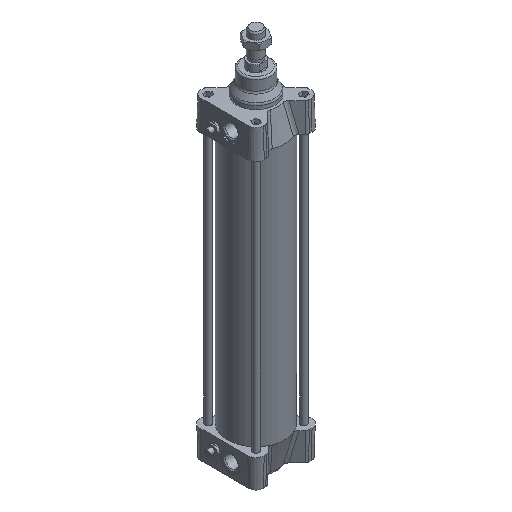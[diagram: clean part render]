
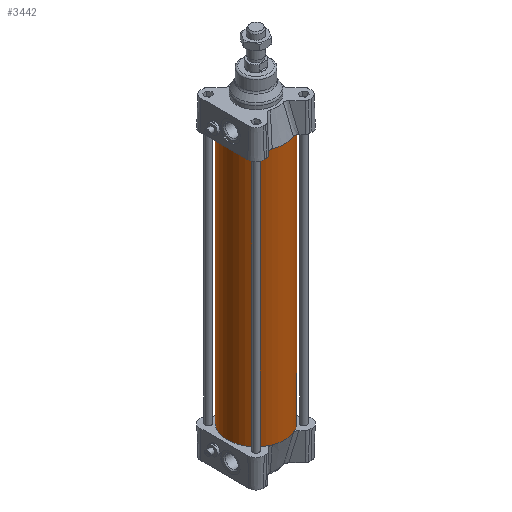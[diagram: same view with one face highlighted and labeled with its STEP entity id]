
A CAD part, isometric view. The second image highlights one B-rep face of the part: STEP entity #3442.
In plain terms, the highlighted cylindrical face has radius 34 mm (diameter 68 mm), a full revolution.
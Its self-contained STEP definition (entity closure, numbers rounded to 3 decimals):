
#805=FACE_BOUND('',#1156,.T.);
#919=FACE_OUTER_BOUND('',#1155,.T.);
#1155=EDGE_LOOP('',(#2522,#2523,#2524,#2525,#2526,#2527));
#1156=EDGE_LOOP('',(#2528,#2529,#2530,#2531,#2532,#2533));
#1447=CIRCLE('',#3715,34.);
#1448=CIRCLE('',#3716,34.);
#1449=CIRCLE('',#3717,34.);
#1450=CIRCLE('',#3718,34.);
#1451=CIRCLE('',#3719,34.);
#1452=CIRCLE('',#3720,34.);
#1453=CIRCLE('',#3721,34.);
#1454=CIRCLE('',#3722,34.);
#1455=CIRCLE('',#3723,34.);
#1456=CIRCLE('',#3724,34.);
#1457=CIRCLE('',#3725,34.);
#1458=CIRCLE('',#3726,34.);
#1638=VERTEX_POINT('',#5250);
#1639=VERTEX_POINT('',#5251);
#1640=VERTEX_POINT('',#5253);
#1641=VERTEX_POINT('',#5255);
#1642=VERTEX_POINT('',#5257);
#1643=VERTEX_POINT('',#5259);
#1644=VERTEX_POINT('',#5262);
#1645=VERTEX_POINT('',#5263);
#1646=VERTEX_POINT('',#5265);
#1647=VERTEX_POINT('',#5267);
#1648=VERTEX_POINT('',#5269);
#1649=VERTEX_POINT('',#5271);
#1983=EDGE_CURVE('',#1638,#1639,#1447,.T.);
#1984=EDGE_CURVE('',#1640,#1638,#1448,.T.);
#1985=EDGE_CURVE('',#1641,#1640,#1449,.T.);
#1986=EDGE_CURVE('',#1642,#1641,#1450,.T.);
#1987=EDGE_CURVE('',#1643,#1642,#1451,.T.);
#1988=EDGE_CURVE('',#1639,#1643,#1452,.T.);
#1989=EDGE_CURVE('',#1644,#1645,#1453,.T.);
#1990=EDGE_CURVE('',#1646,#1644,#1454,.T.);
#1991=EDGE_CURVE('',#1647,#1646,#1455,.T.);
#1992=EDGE_CURVE('',#1648,#1647,#1456,.T.);
#1993=EDGE_CURVE('',#1649,#1648,#1457,.T.);
#1994=EDGE_CURVE('',#1645,#1649,#1458,.T.);
#2522=ORIENTED_EDGE('',*,*,#1983,.F.);
#2523=ORIENTED_EDGE('',*,*,#1984,.F.);
#2524=ORIENTED_EDGE('',*,*,#1985,.F.);
#2525=ORIENTED_EDGE('',*,*,#1986,.F.);
#2526=ORIENTED_EDGE('',*,*,#1987,.F.);
#2527=ORIENTED_EDGE('',*,*,#1988,.F.);
#2528=ORIENTED_EDGE('',*,*,#1989,.F.);
#2529=ORIENTED_EDGE('',*,*,#1990,.F.);
#2530=ORIENTED_EDGE('',*,*,#1991,.F.);
#2531=ORIENTED_EDGE('',*,*,#1992,.F.);
#2532=ORIENTED_EDGE('',*,*,#1993,.F.);
#2533=ORIENTED_EDGE('',*,*,#1994,.F.);
#3384=CYLINDRICAL_SURFACE('',#3714,34.);
#3442=ADVANCED_FACE('',(#919,#805),#3384,.T.);
#3714=AXIS2_PLACEMENT_3D('',#5249,#4220,#4221);
#3715=AXIS2_PLACEMENT_3D('',#5252,#4222,#4223);
#3716=AXIS2_PLACEMENT_3D('',#5254,#4224,#4225);
#3717=AXIS2_PLACEMENT_3D('',#5256,#4226,#4227);
#3718=AXIS2_PLACEMENT_3D('',#5258,#4228,#4229);
#3719=AXIS2_PLACEMENT_3D('',#5260,#4230,#4231);
#3720=AXIS2_PLACEMENT_3D('',#5261,#4232,#4233);
#3721=AXIS2_PLACEMENT_3D('',#5264,#4234,#4235);
#3722=AXIS2_PLACEMENT_3D('',#5266,#4236,#4237);
#3723=AXIS2_PLACEMENT_3D('',#5268,#4238,#4239);
#3724=AXIS2_PLACEMENT_3D('',#5270,#4240,#4241);
#3725=AXIS2_PLACEMENT_3D('',#5272,#4242,#4243);
#3726=AXIS2_PLACEMENT_3D('',#5273,#4244,#4245);
#4220=DIRECTION('center_axis',(0.,0.,1.));
#4221=DIRECTION('ref_axis',(-1.,0.,0.));
#4222=DIRECTION('center_axis',(0.,0.,-1.));
#4223=DIRECTION('ref_axis',(-1.,0.,0.));
#4224=DIRECTION('center_axis',(0.,0.,-1.));
#4225=DIRECTION('ref_axis',(-1.,0.,0.));
#4226=DIRECTION('center_axis',(0.,0.,-1.));
#4227=DIRECTION('ref_axis',(-1.,0.,0.));
#4228=DIRECTION('center_axis',(0.,0.,-1.));
#4229=DIRECTION('ref_axis',(-1.,0.,0.));
#4230=DIRECTION('center_axis',(0.,0.,-1.));
#4231=DIRECTION('ref_axis',(-1.,0.,0.));
#4232=DIRECTION('center_axis',(0.,0.,-1.));
#4233=DIRECTION('ref_axis',(-1.,0.,0.));
#4234=DIRECTION('center_axis',(0.,0.,1.));
#4235=DIRECTION('ref_axis',(-1.,0.,0.));
#4236=DIRECTION('center_axis',(0.,0.,1.));
#4237=DIRECTION('ref_axis',(-1.,0.,0.));
#4238=DIRECTION('center_axis',(0.,0.,1.));
#4239=DIRECTION('ref_axis',(-1.,0.,0.));
#4240=DIRECTION('center_axis',(0.,0.,1.));
#4241=DIRECTION('ref_axis',(-1.,0.,0.));
#4242=DIRECTION('center_axis',(0.,0.,1.));
#4243=DIRECTION('ref_axis',(-1.,0.,0.));
#4244=DIRECTION('center_axis',(0.,0.,1.));
#4245=DIRECTION('ref_axis',(-1.,0.,0.));
#5249=CARTESIAN_POINT('Origin',(0.,0.,0.));
#5250=CARTESIAN_POINT('',(12.491,31.622,-151.5));
#5251=CARTESIAN_POINT('',(31.622,12.491,-151.5));
#5252=CARTESIAN_POINT('Origin',(0.,0.,-151.5));
#5253=CARTESIAN_POINT('',(-12.491,31.622,-151.5));
#5254=CARTESIAN_POINT('Origin',(0.,0.,-151.5));
#5255=CARTESIAN_POINT('',(-12.491,-31.622,-151.5));
#5256=CARTESIAN_POINT('Origin',(0.,0.,-151.5));
#5257=CARTESIAN_POINT('',(12.491,-31.622,-151.5));
#5258=CARTESIAN_POINT('Origin',(0.,0.,-151.5));
#5259=CARTESIAN_POINT('',(31.622,-12.491,-151.5));
#5260=CARTESIAN_POINT('Origin',(0.,0.,-151.5));
#5261=CARTESIAN_POINT('Origin',(0.,0.,-151.5));
#5262=CARTESIAN_POINT('',(12.491,-31.622,151.5));
#5263=CARTESIAN_POINT('',(31.622,-12.491,151.5));
#5264=CARTESIAN_POINT('Origin',(0.,0.,151.5));
#5265=CARTESIAN_POINT('',(-12.491,-31.622,151.5));
#5266=CARTESIAN_POINT('Origin',(0.,0.,151.5));
#5267=CARTESIAN_POINT('',(-12.491,31.622,151.5));
#5268=CARTESIAN_POINT('Origin',(0.,0.,151.5));
#5269=CARTESIAN_POINT('',(12.491,31.622,151.5));
#5270=CARTESIAN_POINT('Origin',(0.,0.,151.5));
#5271=CARTESIAN_POINT('',(31.622,12.491,151.5));
#5272=CARTESIAN_POINT('Origin',(0.,0.,151.5));
#5273=CARTESIAN_POINT('Origin',(0.,0.,151.5));
